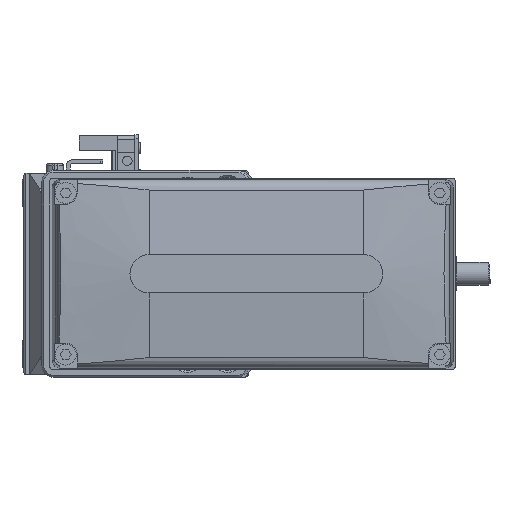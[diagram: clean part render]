
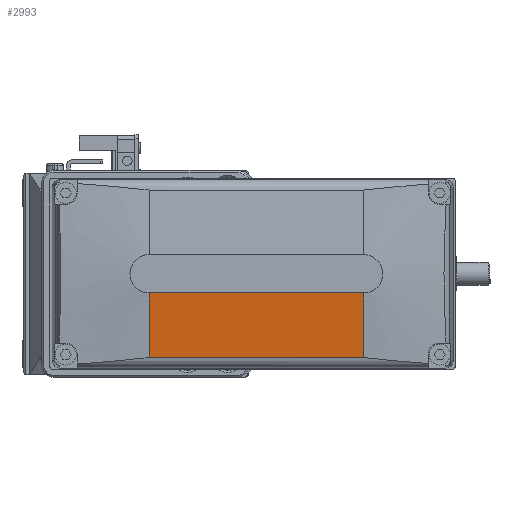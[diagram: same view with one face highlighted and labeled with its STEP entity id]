
A CAD part, left-side view. The second image highlights one B-rep face of the part: STEP entity #2993.
In plain terms, the highlighted planar face has unit normal (-0.996, 0, -0.087).
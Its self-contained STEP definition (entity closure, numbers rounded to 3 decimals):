
#1271 = FACE_OUTER_BOUND ( 'NONE', #12851, .T. ) ;
#1414 = CARTESIAN_POINT ( 'NONE',  ( -48.525, -28., -21.861 ) ) ;
#2993 = ADVANCED_FACE ( 'NONE', ( #1271 ), #5366, .T. ) ;
#3129 = CARTESIAN_POINT ( 'NONE',  ( -48.525, 28., -21.861 ) ) ;
#4375 = EDGE_CURVE ( 'NONE', #30259, #7211, #8695, .T. ) ;
#5044 = ORIENTED_EDGE ( 'NONE', *, *, #4375, .T. ) ;
#5331 = LINE ( 'NONE', #11870, #8889 ) ;
#5366 = PLANE ( 'NONE',  #35807 ) ;
#6272 = VERTEX_POINT ( 'NONE', #3129 ) ;
#7211 = VERTEX_POINT ( 'NONE', #25086 ) ;
#8695 = LINE ( 'NONE', #35039, #16150 ) ;
#8889 = VECTOR ( 'NONE', #18892, 1000. ) ;
#9324 = ORIENTED_EDGE ( 'NONE', *, *, #12541, .F. ) ;
#10029 = EDGE_CURVE ( 'NONE', #6272, #7211, #12998, .T. ) ;
#10781 = ORIENTED_EDGE ( 'NONE', *, *, #10029, .F. ) ;
#11870 = CARTESIAN_POINT ( 'NONE',  ( -48.525, 128., -21.861 ) ) ;
#12541 = EDGE_CURVE ( 'NONE', #24553, #6272, #5331, .T. ) ;
#12851 = EDGE_LOOP ( 'NONE', ( #10781, #9324, #27036, #5044 ) ) ;
#12998 = LINE ( 'NONE', #26383, #17353 ) ;
#13398 = DIRECTION ( 'NONE',  ( 0.087, 0., -0.996 ) ) ;
#14088 = DIRECTION ( 'NONE',  ( -0.996, 0., -0.087 ) ) ;
#14332 = CARTESIAN_POINT ( 'NONE',  ( -50., 128., -5. ) ) ;
#16150 = VECTOR ( 'NONE', #21344, 1000. ) ;
#17353 = VECTOR ( 'NONE', #35349, 1000. ) ;
#18892 = DIRECTION ( 'NONE',  ( 0., 1., 0. ) ) ;
#18981 = EDGE_CURVE ( 'NONE', #30259, #24553, #28802, .T. ) ;
#19609 = VECTOR ( 'NONE', #13398, 1000. ) ;
#20928 = CARTESIAN_POINT ( 'NONE',  ( -50., -28., -5. ) ) ;
#21344 = DIRECTION ( 'NONE',  ( 0., 1., 0. ) ) ;
#24553 = VERTEX_POINT ( 'NONE', #1414 ) ;
#25086 = CARTESIAN_POINT ( 'NONE',  ( -50., 28., -5. ) ) ;
#26383 = CARTESIAN_POINT ( 'NONE',  ( 43606.406, 28., -499000. ) ) ;
#27036 = ORIENTED_EDGE ( 'NONE', *, *, #18981, .F. ) ;
#28802 = LINE ( 'NONE', #30134, #19609 ) ;
#30134 = CARTESIAN_POINT ( 'NONE',  ( 43606.406, -28., -499000. ) ) ;
#30259 = VERTEX_POINT ( 'NONE', #20928 ) ;
#35039 = CARTESIAN_POINT ( 'NONE',  ( -50., 128., -5. ) ) ;
#35349 = DIRECTION ( 'NONE',  ( -0.087, 0., 0.996 ) ) ;
#35807 = AXIS2_PLACEMENT_3D ( 'NONE', #14332, #14088, #36385 ) ;
#36385 = DIRECTION ( 'NONE',  ( -0.087, 0., 0.996 ) ) ;
